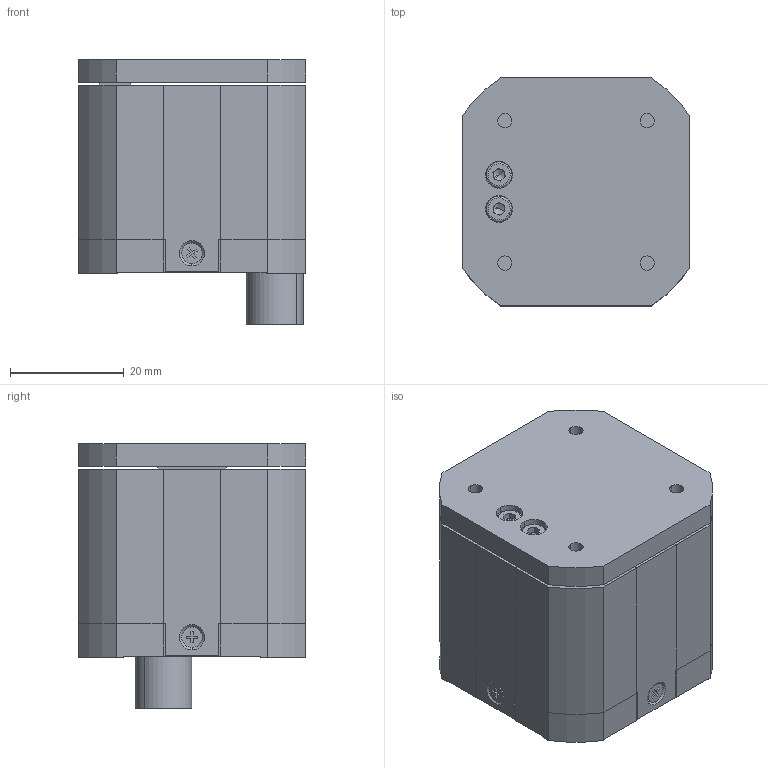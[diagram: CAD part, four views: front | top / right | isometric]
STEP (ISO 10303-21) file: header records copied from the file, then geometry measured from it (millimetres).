
FILE_DESCRIPTION (( 'STEP AP203' ), '1' );
FILE_NAME ('22045三维外形图-22.03.28.STEP', '2022-03-28T00:59:46', ( '' ), ( '' ), 'SwSTEP 2.0', 'SolidWorks 2016', '' );
FILE_SCHEMA (( 'CONFIG_CONTROL_DESIGN' ));
Length unit declared in the file: millimetre
Products named in the file (1): 22045三维外形图-22.03.28
Bounding box: 40 x 40 x 46.5 mm (x, y, z)
Volume: 60536.7 mm3; surface area: 22234 mm2
Topology: 12 solids, 12 shells, 371 faces, 914 edges, 569 vertices
Faces by surface type: plane 205, cylinder 108, cone 50, torus 8
Entity records: 10814 total; most frequent: DIRECTION 1913, CARTESIAN_POINT 1829, ORIENTED_EDGE 1776, EDGE_CURVE 888, AXIS2_PLACEMENT_3D 653, LINE 607, VECTOR 607, VERTEX_POINT 569
